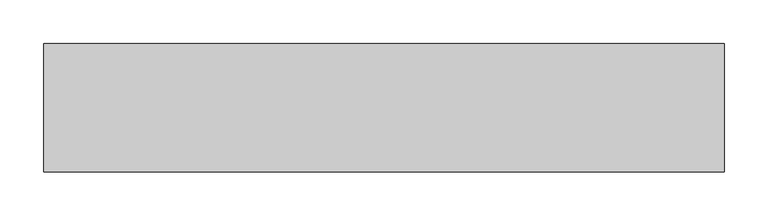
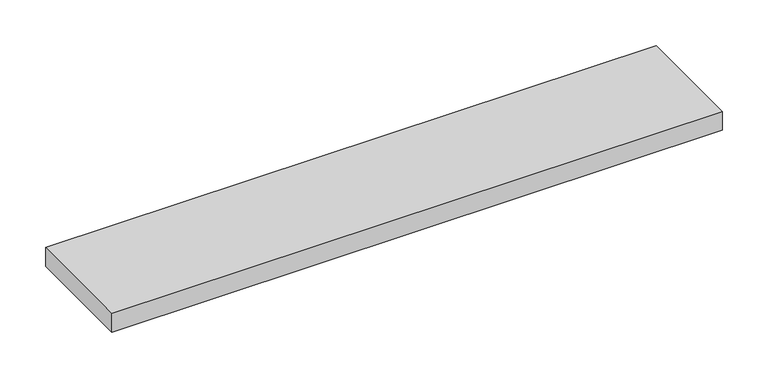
"""IFC4 building model written with IfcOpenShell, lengths in millimetres: proxy geometry, CAMBRIDGE^TABLE 2_4884 Rect-TOP STILE 1."""

import ifcopenshell
import ifcopenshell.guid

model = None  # the IFC model being written
_history = None  # IfcOwnerHistory: only IFC2X3 demands one
_inside = {}  # id of a spatial element -> (the spatial element, [elements in it])
_under = {}  # id of a project, library or spatial element -> (it, [spatial elements below it])
_declared = {}  # id of a project -> (the project, [libraries it declares])
_typed = {}  # id of a type object -> (the type object, [elements of that type])
_made_of = {}  # id of a material, layer set ... -> (it, [elements and type objects made of it])


def new_model(schema):
    """Start an empty IFC model of exactly this schema.

    Asked for "IFC4X3", IfcOpenShell would pick the latest addendum, in which some entities
    have other attributes; the version numbers below select the first issue.
    IFC2X3 requires an IfcOwnerHistory on every rooted entity: one is made here for all.
    """
    global model, _history
    if schema == "IFC4X3":
        model = ifcopenshell.file(schema_version=(4, 3, 0, 0))
    else:
        model = ifcopenshell.file(schema=schema)
    _inside.clear()
    _under.clear()
    _declared.clear()
    _typed.clear()
    _made_of.clear()
    _history = None
    if model.schema == "IFC2X3":
        org = make("IfcOrganization", Name="unknown")
        user = make(
            "IfcPersonAndOrganization",
            ThePerson=make("IfcPerson", FamilyName="unknown"),
            TheOrganization=org,
        )
        app = make(
            "IfcApplication",
            ApplicationDeveloper=org,
            Version="unknown",
            ApplicationFullName="unknown",
            ApplicationIdentifier="unknown",
        )
        _history = make(
            "IfcOwnerHistory",
            OwningUser=user,
            OwningApplication=app,
            ChangeAction="ADDED",
            CreationDate=0,
        )
    return model


def make(cls, **values):
    """One entity of the class cls with the attributes given. An attribute that is None is left unset."""
    return model.create_entity(
        cls, **{name: value for name, value in values.items() if value is not None}
    )


def rooted(cls, **values):
    """An entity with a GlobalId (a new one), such as an element, a storey or a relation."""
    return make(cls, GlobalId=ifcopenshell.guid.new(), OwnerHistory=_history, **values)


def si_unit(unit_type, name, prefix=None):
    """IfcSIUnit, for example si_unit("LENGTHUNIT", "METRE", prefix="MILLI")."""
    return make("IfcSIUnit", UnitType=unit_type, Prefix=prefix, Name=name)


def assignment(units):
    """IfcUnitAssignment: the units of a project."""
    return None if units is None else make("IfcUnitAssignment", Units=units)


def point(xyz):
    """IfcCartesianPoint."""
    return None if xyz is None else make("IfcCartesianPoint", Coordinates=xyz)


def direction(xyz):
    """IfcDirection."""
    return None if xyz is None else make("IfcDirection", DirectionRatios=xyz)


def frame(location, z_axis=None, x_axis=None):
    """IfcAxis2Placement3D, a coordinate frame: its origin and axes. An axis left out is left unset."""
    return make(
        "IfcAxis2Placement3D",
        Location=point(location),
        Axis=direction(z_axis),
        RefDirection=direction(x_axis),
    )


def origin():
    """The frame at (0, 0, 0) with its axes left unset."""
    return frame((0.0, 0.0, 0.0))


def place(relative_to, where):
    """IfcLocalPlacement: puts the frame where relative to a parent placement (None: the world)."""
    return make(
        "IfcLocalPlacement", PlacementRelTo=relative_to, RelativePlacement=where
    )


def context(
    kind, dimensions, precision=None, world=None, true_north=None, identifier=None
):
    """IfcGeometricRepresentationContext, for example the 3D "Model" context."""
    return make(
        "IfcGeometricRepresentationContext",
        ContextIdentifier=identifier,
        ContextType=kind,
        CoordinateSpaceDimension=dimensions,
        Precision=precision,
        WorldCoordinateSystem=world,
        TrueNorth=true_north,
    )


def project(units=None, contexts=None):
    """IfcProject with its units and contexts."""
    return rooted(
        "IfcProject",
        Name="project",
        RepresentationContexts=contexts,
        UnitsInContext=assignment(units),
    )


def spatial(cls, under=None, at=None, **own):
    """A site, building, storey or space (cls), placed at a placement, below another one or the project."""
    s = rooted(cls, ObjectPlacement=at, **own)
    if under is not None:
        _under.setdefault(under.id(), (under, []))[1].append(s)
    return s


def polyline(points):
    """IfcPolyline through the points."""
    return make("IfcPolyline", Points=[point(p) for p in points])


def outline(outer, holes=None, kind="AREA"):
    """IfcArbitraryClosedProfileDef: a profile drawn as a closed curve; with holes, ...WithVoids."""
    if holes is None:
        return make("IfcArbitraryClosedProfileDef", ProfileType=kind, OuterCurve=outer)
    return make(
        "IfcArbitraryProfileDefWithVoids",
        ProfileType=kind,
        OuterCurve=outer,
        InnerCurves=holes,
    )


def extrude(swept, where, along, depth):
    """IfcExtrudedAreaSolid: the profile swept, set in the frame where, extruded along a direction by depth."""
    return make(
        "IfcExtrudedAreaSolid",
        SweptArea=swept,
        Position=where,
        ExtrudedDirection=direction(along),
        Depth=depth,
    )


def shape(context_of_items, identifier, shape_type, items):
    """IfcShapeRepresentation: the items that make up one representation, for example the "Body"."""
    return make(
        "IfcShapeRepresentation",
        ContextOfItems=context_of_items,
        RepresentationIdentifier=identifier,
        RepresentationType=shape_type,
        Items=items,
    )


def source(mapping_origin, context_of_items, identifier, shape_type, items):
    """IfcRepresentationMap: a shape defined once, which mapped items show again and again."""
    return make(
        "IfcRepresentationMap",
        MappingOrigin=mapping_origin,
        MappedRepresentation=shape(context_of_items, identifier, shape_type, items),
    )


def transform(
    local_origin,
    x_axis=None,
    y_axis=None,
    z_axis=None,
    scale=None,
    scale2=None,
    scale3=None,
    uniform=True,
):
    """IfcCartesianTransformationOperator3D, or its non-uniform kind. x_axis, y_axis, z_axis: its Axis1, 2, 3."""
    if uniform:
        return make(
            "IfcCartesianTransformationOperator3D",
            Axis1=direction(x_axis),
            Axis2=direction(y_axis),
            LocalOrigin=point(local_origin),
            Scale=scale,
            Axis3=direction(z_axis),
        )
    return make(
        "IfcCartesianTransformationOperator3DnonUniform",
        Axis1=direction(x_axis),
        Axis2=direction(y_axis),
        LocalOrigin=point(local_origin),
        Scale=scale,
        Axis3=direction(z_axis),
        Scale2=scale2,
        Scale3=scale3,
    )


def mapped(mapping_source, mapping_target):
    """IfcMappedItem: shows the shape of a source again, moved by a transform."""
    return make(
        "IfcMappedItem", MappingSource=mapping_source, MappingTarget=mapping_target
    )


def made_of(thing, what):
    """Note that an element or type object is made of a material, layer set ...; save() writes the relation."""
    if what is not None:
        _made_of.setdefault(what.id(), (what, []))[1].append(thing)
    return thing


def element(
    cls,
    number,
    at=None,
    inside=None,
    cuts=None,
    type_object=None,
    material=None,
    context=None,
    identifier="Body",
    shape_type=None,
    held_by="IfcProductDefinitionShape",
    body=None,
    shapes=None,
    **own,
):
    """One element of the class cls, such as IfcWall. Its Tag is "e" and its number.

    at: its placement. inside: the storey or other place that contains it. cuts: it is an
    opening in that element (IfcRelVoidsElement). A single representation is given by context,
    identifier, shape_type and body (its items); several are given by shapes. held_by: the class
    of the entity that holds the representations. save() writes the other relations.
    """
    e = rooted(cls, Tag="e%d" % number, ObjectPlacement=at, **own)
    if body is not None:
        shapes = [shape(context, identifier, shape_type, body)]
    if shapes is not None:
        e.Representation = make(held_by, Representations=shapes)
    if inside is not None:
        _inside.setdefault(inside.id(), (inside, []))[1].append(e)
    if cuts is not None:
        rooted(
            "IfcRelVoidsElement", RelatingBuildingElement=cuts, RelatedOpeningElement=e
        )
    if type_object is not None:
        _typed.setdefault(type_object.id(), (type_object, []))[1].append(e)
    return made_of(e, material)


def aggregate(whole, parts):
    """IfcRelAggregates: a whole, such as a stair, and the parts it consists of."""
    return rooted("IfcRelAggregates", RelatingObject=whole, RelatedObjects=parts)


def save(model, path):
    """Write the relations noted so far, then the file.

    IfcRelAggregates (storeys below a building ...), IfcRelContainedInSpatialStructure (elements
    in a storey), IfcRelDefinesByType, IfcRelAssociatesMaterial and IfcRelDeclares: one each for
    every whole, place, type object, material and project.
    """
    for whole, parts in _under.values():
        aggregate(whole, parts)
    for where, things in _inside.values():
        rooted(
            "IfcRelContainedInSpatialStructure",
            RelatedElements=things,
            RelatingStructure=where,
        )
    for kind, things in _typed.values():
        rooted("IfcRelDefinesByType", RelatedObjects=things, RelatingType=kind)
    for what, things in _made_of.values():
        rooted("IfcRelAssociatesMaterial", RelatedObjects=things, RelatingMaterial=what)
    for by, libraries in _declared.values():
        rooted("IfcRelDeclares", RelatingContext=by, RelatedDefinitions=libraries)
    model.write(path)


def generic_models_2dd7b272(model_context):
    return source(origin(), model_context, "Body", "SweptSolid", [
        extrude(outline(polyline([(679.45, 0.0), (1454.15, 0.0), (1454.15, -146.05), (679.45, -146.05), (679.45, 0.0)])), frame((0.0, 0.0, -431.8), z_axis=(0.0, 0.0, 1.0), x_axis=(1.0, 0.0, 0.0)), (0.0, 0.0, 1.0), 25.4),
    ])


if __name__ == "__main__":
    model = new_model("IFC4")
    model_context = context("Model", 3, world=origin())
    ifc_project = project(units=[si_unit("LENGTHUNIT", "METRE", prefix="MILLI")], contexts=[model_context])
    site = spatial("IfcSite", under=ifc_project)
    building = spatial("IfcBuilding", under=site)
    placement = place(None, origin())
    generic_models_shape = generic_models_2dd7b272(model_context)
    element("IfcBuildingElementProxy", 1, Name="CAMBRIDGE^TABLE 2_4884 Rect-TOP STILE 1", ObjectType="CAMBRIDGE^TABLE 2_4884 Rect-TOP STILE 1", at=placement, inside=building, context=model_context, shape_type="MappedRepresentation", body=[
        mapped(generic_models_shape, transform((0.0, 0.0, 0.0), x_axis=(1.0, 0.0, 0.0), y_axis=(0.0, 1.0, 0.0), z_axis=(0.0, 0.0, 1.0))),
    ])
    save(model, "model.ifc")
